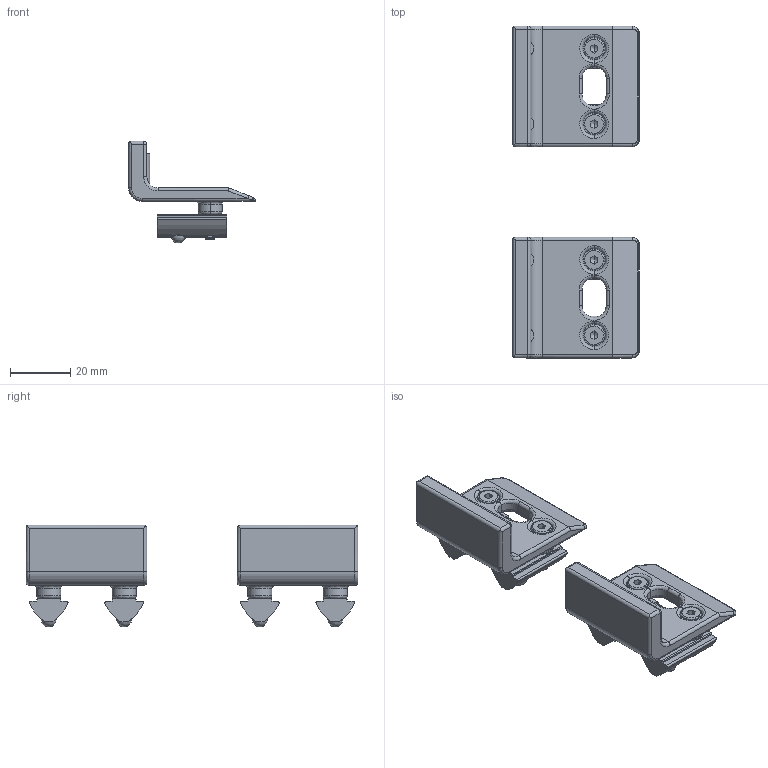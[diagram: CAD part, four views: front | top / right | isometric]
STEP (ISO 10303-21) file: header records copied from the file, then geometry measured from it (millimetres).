
FILE_DESCRIPTION (( 'STEP AP203' ), '1' );
FILE_NAME ('28447_ANSCHLAGWINKEL8.STEP', '2018-04-09T14:35:26', ( '' ), ( '' ), 'SwSTEP 2.0', 'SolidWorks 2017', '' );
FILE_SCHEMA (( 'CONFIG_CONTROL_DESIGN' ));
Length unit declared in the file: millimetre
Products named in the file (6): 1; 28447_ANSCHLAGWINKEL8; S208NSMS4; DIN 7984 - M4 x 14; 2; S208TAWPA
Assembly tree (12 placements, depth 3):
  28447_ANSCHLAGWINKEL8
    S208TAWPA  x2
    S208NSMS4  x4
      1
      2
    DIN 7984 - M4 x 14  x4
Bounding box: 42 x 110 x 33.8 mm (x, y, z)
Volume: 1332.6 mm3; surface area: 21490 mm2
Topology: 8 solids, 16 shells, 456 faces, 1236 edges, 770 vertices
Faces by surface type: cylinder 200, plane 128, bspline 104, cone 24
Entity records: 12690 total; most frequent: CARTESIAN_POINT 8083, ORIENTED_EDGE 821, DIRECTION 764, EDGE_CURVE 425, AXIS2_PLACEMENT_3D 303, VERTEX_POINT 267, EDGE_LOOP 183, FACE_OUTER_BOUND 167
